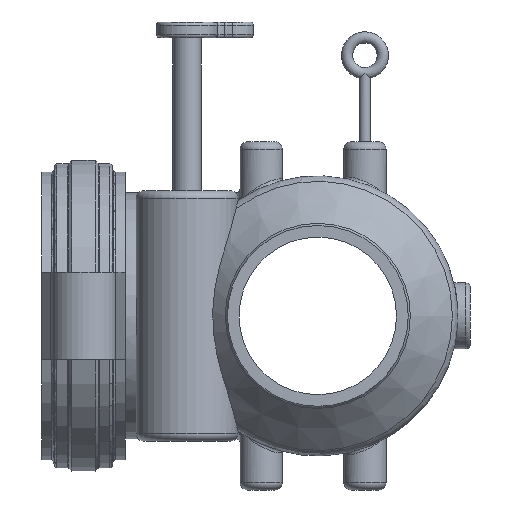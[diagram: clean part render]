
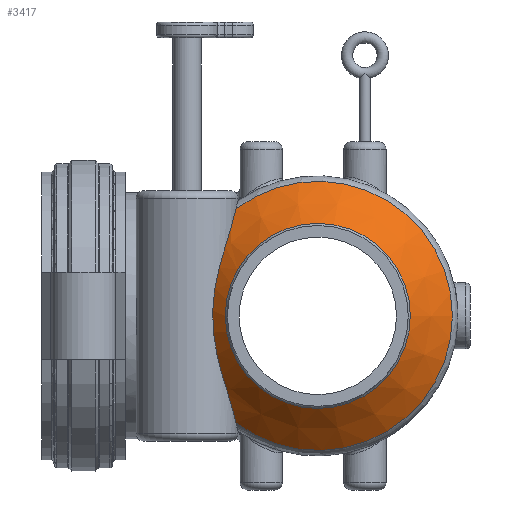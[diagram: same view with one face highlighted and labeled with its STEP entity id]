
A CAD part, left-side view. The second image highlights one B-rep face of the part: STEP entity #3417.
In plain terms, the highlighted conical face has half-angle 45 degrees and reference radius 76.555 mm.
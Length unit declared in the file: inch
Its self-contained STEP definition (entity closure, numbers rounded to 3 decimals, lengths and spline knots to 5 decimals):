
#81=CONICAL_SURFACE('',#3815,3.01397,0.785);
#382=FACE_OUTER_BOUND('',#584,.T.);
#584=EDGE_LOOP('',(#2914,#2915,#2916,#2917,#2918,#2919,#2920,#2921));
#791=CIRCLE('',#3791,3.57229);
#792=CIRCLE('',#3792,3.57229);
#810=CIRCLE('',#3816,2.45565);
#811=CIRCLE('',#3817,2.45565);
#812=CIRCLE('',#3818,2.45565);
#966=LINE('',#7665,#1103);
#1103=VECTOR('',#4739,3.01397);
#1198=B_SPLINE_CURVE_WITH_KNOTS('',3,(#7229,#7230,#7231,#7232,#7233,#7234,
#7235,#7236,#7237,#7238,#7239,#7240,#7241,#7242,#7243,#7244,#7245,#7246,
#7247,#7248,#7249,#7250,#7251,#7252,#7253,#7254),.UNSPECIFIED.,.F.,.F.,
(4,2,2,2,2,2,2,2,2,2,2,2,4),(2.9656,4.00933,5.34577,
6.68222,8.01866,9.3551,10.69155,12.02799,
13.36443,14.70088,16.03732,17.37376,18.4175),
 .UNSPECIFIED.);
#1447=VERTEX_POINT('',#7219);
#1448=VERTEX_POINT('',#7228);
#1474=VERTEX_POINT('',#7616);
#1490=VERTEX_POINT('',#7660);
#1491=VERTEX_POINT('',#7661);
#1492=VERTEX_POINT('',#7663);
#1893=EDGE_CURVE('',#1448,#1447,#1198,.T.);
#1950=EDGE_CURVE('',#1474,#1448,#791,.T.);
#1951=EDGE_CURVE('',#1447,#1474,#792,.T.);
#1972=EDGE_CURVE('',#1490,#1491,#810,.T.);
#1973=EDGE_CURVE('',#1492,#1490,#811,.T.);
#1974=EDGE_CURVE('',#1492,#1474,#966,.T.);
#1975=EDGE_CURVE('',#1491,#1492,#812,.T.);
#2914=ORIENTED_EDGE('',*,*,#1972,.F.);
#2915=ORIENTED_EDGE('',*,*,#1973,.F.);
#2916=ORIENTED_EDGE('',*,*,#1974,.T.);
#2917=ORIENTED_EDGE('',*,*,#1950,.T.);
#2918=ORIENTED_EDGE('',*,*,#1893,.T.);
#2919=ORIENTED_EDGE('',*,*,#1951,.T.);
#2920=ORIENTED_EDGE('',*,*,#1974,.F.);
#2921=ORIENTED_EDGE('',*,*,#1975,.F.);
#3417=ADVANCED_FACE('',(#382),#81,.T.);
#3791=AXIS2_PLACEMENT_3D('',#7617,#4682,#4683);
#3792=AXIS2_PLACEMENT_3D('',#7618,#4684,#4685);
#3815=AXIS2_PLACEMENT_3D('',#7659,#4733,#4734);
#3816=AXIS2_PLACEMENT_3D('',#7662,#4735,#4736);
#3817=AXIS2_PLACEMENT_3D('',#7664,#4737,#4738);
#3818=AXIS2_PLACEMENT_3D('',#7666,#4740,#4741);
#4682=DIRECTION('center_axis',(-1.,0.,0.));
#4683=DIRECTION('ref_axis',(0.,0.,1.));
#4684=DIRECTION('center_axis',(-1.,0.,0.));
#4685=DIRECTION('ref_axis',(0.,0.,1.));
#4733=DIRECTION('center_axis',(1.,0.,0.));
#4734=DIRECTION('ref_axis',(0.,1.,0.));
#4735=DIRECTION('center_axis',(-1.,0.,0.));
#4736=DIRECTION('ref_axis',(0.,0.,1.));
#4737=DIRECTION('center_axis',(-1.,0.,0.));
#4738=DIRECTION('ref_axis',(0.,0.,1.));
#4739=DIRECTION('',(0.707,-0.707,0.));
#4740=DIRECTION('center_axis',(-1.,0.,0.));
#4741=DIRECTION('ref_axis',(0.,0.,1.));
#7219=CARTESIAN_POINT('',(-3.51771,2.17627,-2.83286));
#7228=CARTESIAN_POINT('',(-3.51771,2.17627,2.83286));
#7229=CARTESIAN_POINT('Ctrl Pts',(-3.51771,2.17627,2.83286));
#7230=CARTESIAN_POINT('Ctrl Pts',(-3.59199,2.19842,2.72217));
#7231=CARTESIAN_POINT('Ctrl Pts',(-3.66183,2.22623,2.60892));
#7232=CARTESIAN_POINT('Ctrl Pts',(-3.80916,2.29849,2.34471));
#7233=CARTESIAN_POINT('Ctrl Pts',(-3.88324,2.34543,2.19206));
#7234=CARTESIAN_POINT('Ctrl Pts',(-4.01206,2.4431,1.87826));
#7235=CARTESIAN_POINT('Ctrl Pts',(-4.06683,2.49382,1.71693));
#7236=CARTESIAN_POINT('Ctrl Pts',(-4.15733,2.58936,1.38681));
#7237=CARTESIAN_POINT('Ctrl Pts',(-4.1931,2.6341,1.21801));
#7238=CARTESIAN_POINT('Ctrl Pts',(-4.24817,2.7092,0.87535));
#7239=CARTESIAN_POINT('Ctrl Pts',(-4.26756,2.73954,0.70141));
#7240=CARTESIAN_POINT('Ctrl Pts',(-4.29289,2.7805,0.35143));
#7241=CARTESIAN_POINT('Ctrl Pts',(-4.29888,2.79112,0.17539));
#7242=CARTESIAN_POINT('Ctrl Pts',(-4.29888,2.79112,-0.17539));
#7243=CARTESIAN_POINT('Ctrl Pts',(-4.29289,2.7805,-0.35143));
#7244=CARTESIAN_POINT('Ctrl Pts',(-4.26756,2.73954,-0.70141));
#7245=CARTESIAN_POINT('Ctrl Pts',(-4.24817,2.7092,-0.87535));
#7246=CARTESIAN_POINT('Ctrl Pts',(-4.1931,2.6341,-1.21801));
#7247=CARTESIAN_POINT('Ctrl Pts',(-4.15733,2.58936,-1.38681));
#7248=CARTESIAN_POINT('Ctrl Pts',(-4.06683,2.49382,-1.71693));
#7249=CARTESIAN_POINT('Ctrl Pts',(-4.01206,2.4431,-1.87826));
#7250=CARTESIAN_POINT('Ctrl Pts',(-3.88324,2.34543,-2.19206));
#7251=CARTESIAN_POINT('Ctrl Pts',(-3.80916,2.29849,-2.34471));
#7252=CARTESIAN_POINT('Ctrl Pts',(-3.66183,2.22623,-2.60892));
#7253=CARTESIAN_POINT('Ctrl Pts',(-3.59199,2.19842,-2.72217));
#7254=CARTESIAN_POINT('Ctrl Pts',(-3.51771,2.17627,-2.83286));
#7616=CARTESIAN_POINT('',(-3.51771,-3.57229,0.));
#7617=CARTESIAN_POINT('Origin',(-3.51771,0.,0.));
#7618=CARTESIAN_POINT('Origin',(-3.51771,0.,0.));
#7659=CARTESIAN_POINT('Origin',(-4.07603,0.,0.));
#7660=CARTESIAN_POINT('',(-4.63435,2.45565,0.));
#7661=CARTESIAN_POINT('',(-4.63435,0.,-2.45565));
#7662=CARTESIAN_POINT('Origin',(-4.63435,0.,0.));
#7663=CARTESIAN_POINT('',(-4.63435,-2.45565,0.));
#7664=CARTESIAN_POINT('Origin',(-4.63435,0.,0.));
#7665=CARTESIAN_POINT('',(-4.07603,-3.01397,0.));
#7666=CARTESIAN_POINT('Origin',(-4.63435,0.,0.));
